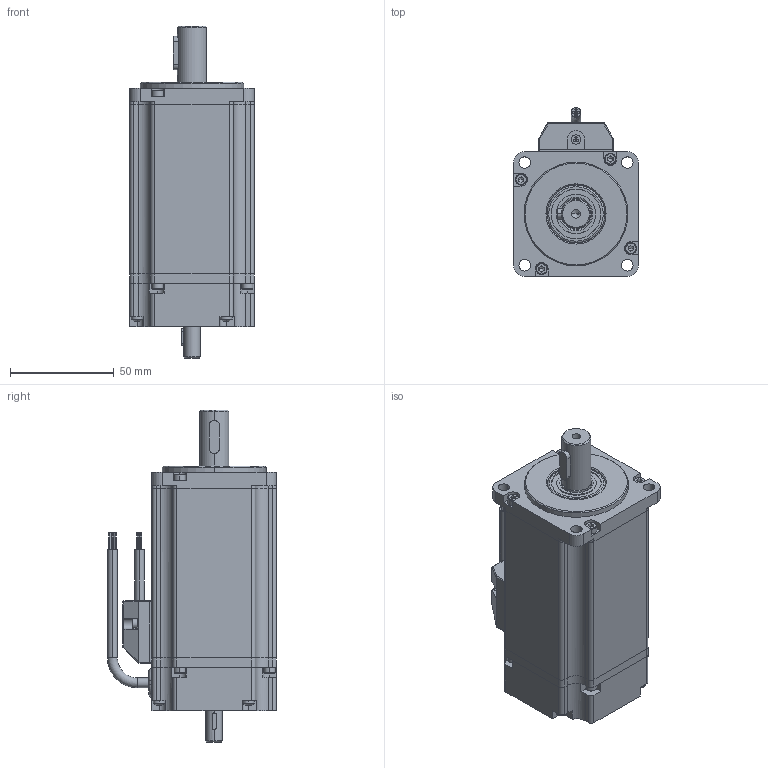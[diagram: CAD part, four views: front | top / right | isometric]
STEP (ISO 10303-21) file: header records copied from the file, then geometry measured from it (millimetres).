
FILE_DESCRIPTION (( 'STEP AP214' ), '1' );
FILE_NAME ('BLF60D-040 - 400W dual shaft.STEP', '2024-09-11T18:43:39', ( '' ), ( '' ), 'SwSTEP 2.0', 'SolidWorks 2020', '' );
FILE_SCHEMA (( 'AUTOMOTIVE_DESIGN' ));
Length unit declared in the file: millimetre
Products named in the file (5): BLF60D-0X0 - X00W D-S shaft_BLF60D-020-200W Dual shaft; BLF60D-040 - 400W dual shaft; socket head cap screw_am_B18.3.1M - 2.5 x 0.45 x 10 Hex SHCS -- 10SHX; socket head cap screw_am_B18.3.1M - 3 x 0.5 x 8 Hex SHCS -- 8SHX; pan cross head_am_B18.6.7M - M3 x 0.5 x 20 Type I Cross Recessed PHMS --20N
Assembly tree (15 placements, depth 2):
  BLF60D-040 - 400W dual shaft
    BLF60D-0X0 - X00W D-S shaft_BLF60D-020-200W Dual shaft
    socket head cap screw_am_B18.3.1M - 3 x 0.5 x 8 Hex SHCS -- 8SHX  x8
    socket head cap screw_am_B18.3.1M - 2.5 x 0.45 x 10 Hex SHCS -- 10SHX  x2
    pan cross head_am_B18.6.7M - M3 x 0.5 x 20 Type I Cross Recessed PHMS --20N  x4
Bounding box: 60 x 81.42 x 160 mm (x, y, z)
Volume: 396822 mm3; surface area: 44343.5 mm2
Topology: 15 solids, 15 shells, 1725 faces, 4327 edges, 2646 vertices
Faces by surface type: cone 738, cylinder 560, plane 366, torus 39, sphere 14, bspline 8
Entity records: 20625 total; most frequent: CARTESIAN_POINT 4063, DIRECTION 3679, ORIENTED_EDGE 3310, EDGE_CURVE 1655, AXIS2_PLACEMENT_3D 1442, VERTEX_POINT 1022, LINE 795, VECTOR 795
